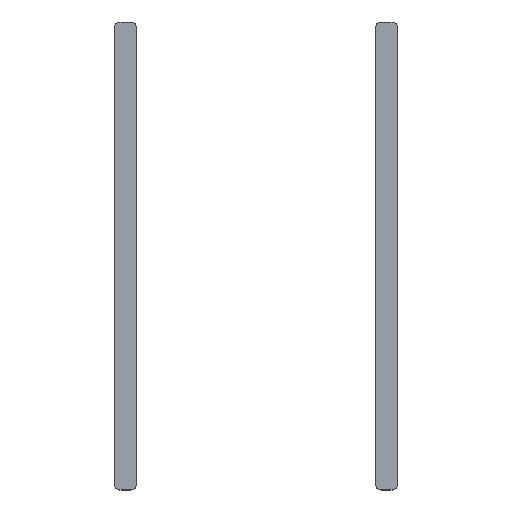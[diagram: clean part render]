
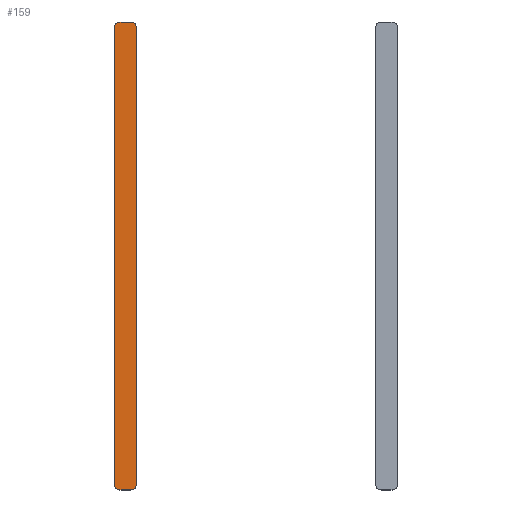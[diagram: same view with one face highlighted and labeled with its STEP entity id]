
A CAD part, top view. The second image highlights one B-rep face of the part: STEP entity #159.
In plain terms, the highlighted planar face has unit normal (0, 0, 1).
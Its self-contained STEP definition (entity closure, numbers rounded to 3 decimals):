
#43 = EDGE_CURVE('',#44,#46,#48,.T.);
#44 = VERTEX_POINT('',#45);
#45 = CARTESIAN_POINT('',(-26.,-42.,-11.85));
#46 = VERTEX_POINT('',#47);
#47 = CARTESIAN_POINT('',(-26.,42.,-11.85));
#48 = SURFACE_CURVE('',#49,(#53,#65),.PCURVE_S1.);
#49 = LINE('',#50,#51);
#50 = CARTESIAN_POINT('',(-26.,-43.,-11.85));
#51 = VECTOR('',#52,1.);
#52 = DIRECTION('',(0.,1.,0.));
#53 = PCURVE('',#54,#59);
#54 = PLANE('',#55);
#55 = AXIS2_PLACEMENT_3D('',#56,#57,#58);
#56 = CARTESIAN_POINT('',(-26.,-43.,-11.95));
#57 = DIRECTION('',(1.,0.,0.));
#58 = DIRECTION('',(0.,0.,1.));
#59 = DEFINITIONAL_REPRESENTATION('',(#60),#64);
#60 = LINE('',#61,#62);
#61 = CARTESIAN_POINT('',(0.1,0.));
#62 = VECTOR('',#63,1.);
#63 = DIRECTION('',(0.,-1.));
#64 = ( GEOMETRIC_REPRESENTATION_CONTEXT(2) 
PARAMETRIC_REPRESENTATION_CONTEXT() REPRESENTATION_CONTEXT('2D SPACE',''
  ) );
#65 = PCURVE('',#66,#71);
#66 = PLANE('',#67);
#67 = AXIS2_PLACEMENT_3D('',#68,#69,#70);
#68 = CARTESIAN_POINT('',(-26.,-43.,-11.85));
#69 = DIRECTION('',(0.,0.,1.));
#70 = DIRECTION('',(1.,0.,0.));
#71 = DEFINITIONAL_REPRESENTATION('',(#72),#76);
#72 = LINE('',#73,#74);
#73 = CARTESIAN_POINT('',(0.,0.));
#74 = VECTOR('',#75,1.);
#75 = DIRECTION('',(0.,1.));
#76 = ( GEOMETRIC_REPRESENTATION_CONTEXT(2) 
PARAMETRIC_REPRESENTATION_CONTEXT() REPRESENTATION_CONTEXT('2D SPACE',''
  ) );
#94 = CYLINDRICAL_SURFACE('',#95,1.);
#95 = AXIS2_PLACEMENT_3D('',#96,#97,#98);
#96 = CARTESIAN_POINT('',(-25.,-42.,-11.95));
#97 = DIRECTION('',(0.,0.,1.));
#98 = DIRECTION('',(-1.,-0.,0.));
#148 = CYLINDRICAL_SURFACE('',#149,1.);
#149 = AXIS2_PLACEMENT_3D('',#150,#151,#152);
#150 = CARTESIAN_POINT('',(-25.,42.,-11.95));
#151 = DIRECTION('',(0.,0.,1.));
#152 = DIRECTION('',(-1.,-0.,0.));
#159 = ADVANCED_FACE('',(#160),#66,.T.);
#160 = FACE_BOUND('',#161,.T.);
#161 = EDGE_LOOP('',(#162,#163,#187,#215,#248,#276,#305,#333));
#162 = ORIENTED_EDGE('',*,*,#43,.F.);
#163 = ORIENTED_EDGE('',*,*,#164,.T.);
#164 = EDGE_CURVE('',#44,#165,#167,.T.);
#165 = VERTEX_POINT('',#166);
#166 = CARTESIAN_POINT('',(-25.,-43.,-11.85));
#167 = SURFACE_CURVE('',#168,(#173,#180),.PCURVE_S1.);
#168 = CIRCLE('',#169,1.);
#169 = AXIS2_PLACEMENT_3D('',#170,#171,#172);
#170 = CARTESIAN_POINT('',(-25.,-42.,-11.85));
#171 = DIRECTION('',(0.,0.,1.));
#172 = DIRECTION('',(0.,-1.,0.));
#173 = PCURVE('',#66,#174);
#174 = DEFINITIONAL_REPRESENTATION('',(#175),#179);
#175 = CIRCLE('',#176,1.);
#176 = AXIS2_PLACEMENT_2D('',#177,#178);
#177 = CARTESIAN_POINT('',(1.,1.));
#178 = DIRECTION('',(0.,-1.));
#179 = ( GEOMETRIC_REPRESENTATION_CONTEXT(2) 
PARAMETRIC_REPRESENTATION_CONTEXT() REPRESENTATION_CONTEXT('2D SPACE',''
  ) );
#180 = PCURVE('',#94,#181);
#181 = DEFINITIONAL_REPRESENTATION('',(#182),#186);
#182 = LINE('',#183,#184);
#183 = CARTESIAN_POINT('',(-4.712,0.1));
#184 = VECTOR('',#185,1.);
#185 = DIRECTION('',(1.,0.));
#186 = ( GEOMETRIC_REPRESENTATION_CONTEXT(2) 
PARAMETRIC_REPRESENTATION_CONTEXT() REPRESENTATION_CONTEXT('2D SPACE',''
  ) );
#187 = ORIENTED_EDGE('',*,*,#188,.T.);
#188 = EDGE_CURVE('',#165,#189,#191,.T.);
#189 = VERTEX_POINT('',#190);
#190 = CARTESIAN_POINT('',(-23.,-43.,-11.85));
#191 = SURFACE_CURVE('',#192,(#196,#203),.PCURVE_S1.);
#192 = LINE('',#193,#194);
#193 = CARTESIAN_POINT('',(-26.,-43.,-11.85));
#194 = VECTOR('',#195,1.);
#195 = DIRECTION('',(1.,0.,0.));
#196 = PCURVE('',#66,#197);
#197 = DEFINITIONAL_REPRESENTATION('',(#198),#202);
#198 = LINE('',#199,#200);
#199 = CARTESIAN_POINT('',(0.,0.));
#200 = VECTOR('',#201,1.);
#201 = DIRECTION('',(1.,0.));
#202 = ( GEOMETRIC_REPRESENTATION_CONTEXT(2) 
PARAMETRIC_REPRESENTATION_CONTEXT() REPRESENTATION_CONTEXT('2D SPACE',''
  ) );
#203 = PCURVE('',#204,#209);
#204 = PLANE('',#205);
#205 = AXIS2_PLACEMENT_3D('',#206,#207,#208);
#206 = CARTESIAN_POINT('',(-26.,-43.,-11.95));
#207 = DIRECTION('',(0.,1.,0.));
#208 = DIRECTION('',(0.,0.,1.));
#209 = DEFINITIONAL_REPRESENTATION('',(#210),#214);
#210 = LINE('',#211,#212);
#211 = CARTESIAN_POINT('',(0.1,0.));
#212 = VECTOR('',#213,1.);
#213 = DIRECTION('',(0.,1.));
#214 = ( GEOMETRIC_REPRESENTATION_CONTEXT(2) 
PARAMETRIC_REPRESENTATION_CONTEXT() REPRESENTATION_CONTEXT('2D SPACE',''
  ) );
#215 = ORIENTED_EDGE('',*,*,#216,.F.);
#216 = EDGE_CURVE('',#217,#189,#219,.T.);
#217 = VERTEX_POINT('',#218);
#218 = CARTESIAN_POINT('',(-22.,-42.,-11.85));
#219 = SURFACE_CURVE('',#220,(#225,#236),.PCURVE_S1.);
#220 = CIRCLE('',#221,1.);
#221 = AXIS2_PLACEMENT_3D('',#222,#223,#224);
#222 = CARTESIAN_POINT('',(-23.,-42.,-11.85));
#223 = DIRECTION('',(-0.,-0.,-1.));
#224 = DIRECTION('',(0.,-1.,0.));
#225 = PCURVE('',#66,#226);
#226 = DEFINITIONAL_REPRESENTATION('',(#227),#235);
#227 = ( BOUNDED_CURVE() B_SPLINE_CURVE(2,(#228,#229,#230,#231,#232,#233
,#234),.UNSPECIFIED.,.T.,.F.) B_SPLINE_CURVE_WITH_KNOTS((1,2,2,2,2,1),(
    -2.094,0.,2.094,4.189,6.283,
8.378),.UNSPECIFIED.) CURVE() GEOMETRIC_REPRESENTATION_ITEM() 
RATIONAL_B_SPLINE_CURVE((1.,0.5,1.,0.5,1.,0.5,1.)) REPRESENTATION_ITEM(
  '') );
#228 = CARTESIAN_POINT('',(3.,0.));
#229 = CARTESIAN_POINT('',(1.268,0.));
#230 = CARTESIAN_POINT('',(2.134,1.5));
#231 = CARTESIAN_POINT('',(3.,3.));
#232 = CARTESIAN_POINT('',(3.866,1.5));
#233 = CARTESIAN_POINT('',(4.732,0.));
#234 = CARTESIAN_POINT('',(3.,0.));
#235 = ( GEOMETRIC_REPRESENTATION_CONTEXT(2) 
PARAMETRIC_REPRESENTATION_CONTEXT() REPRESENTATION_CONTEXT('2D SPACE',''
  ) );
#236 = PCURVE('',#237,#242);
#237 = CYLINDRICAL_SURFACE('',#238,1.);
#238 = AXIS2_PLACEMENT_3D('',#239,#240,#241);
#239 = CARTESIAN_POINT('',(-23.,-42.,-11.95));
#240 = DIRECTION('',(0.,0.,1.));
#241 = DIRECTION('',(1.,0.,-0.));
#242 = DEFINITIONAL_REPRESENTATION('',(#243),#247);
#243 = LINE('',#244,#245);
#244 = CARTESIAN_POINT('',(4.712,0.1));
#245 = VECTOR('',#246,1.);
#246 = DIRECTION('',(-1.,0.));
#247 = ( GEOMETRIC_REPRESENTATION_CONTEXT(2) 
PARAMETRIC_REPRESENTATION_CONTEXT() REPRESENTATION_CONTEXT('2D SPACE',''
  ) );
#248 = ORIENTED_EDGE('',*,*,#249,.T.);
#249 = EDGE_CURVE('',#217,#250,#252,.T.);
#250 = VERTEX_POINT('',#251);
#251 = CARTESIAN_POINT('',(-22.,42.,-11.85));
#252 = SURFACE_CURVE('',#253,(#257,#264),.PCURVE_S1.);
#253 = LINE('',#254,#255);
#254 = CARTESIAN_POINT('',(-22.,-43.,-11.85));
#255 = VECTOR('',#256,1.);
#256 = DIRECTION('',(0.,1.,0.));
#257 = PCURVE('',#66,#258);
#258 = DEFINITIONAL_REPRESENTATION('',(#259),#263);
#259 = LINE('',#260,#261);
#260 = CARTESIAN_POINT('',(4.,0.));
#261 = VECTOR('',#262,1.);
#262 = DIRECTION('',(0.,1.));
#263 = ( GEOMETRIC_REPRESENTATION_CONTEXT(2) 
PARAMETRIC_REPRESENTATION_CONTEXT() REPRESENTATION_CONTEXT('2D SPACE',''
  ) );
#264 = PCURVE('',#265,#270);
#265 = PLANE('',#266);
#266 = AXIS2_PLACEMENT_3D('',#267,#268,#269);
#267 = CARTESIAN_POINT('',(-22.,-43.,-11.95));
#268 = DIRECTION('',(1.,0.,0.));
#269 = DIRECTION('',(0.,0.,1.));
#270 = DEFINITIONAL_REPRESENTATION('',(#271),#275);
#271 = LINE('',#272,#273);
#272 = CARTESIAN_POINT('',(0.1,0.));
#273 = VECTOR('',#274,1.);
#274 = DIRECTION('',(0.,-1.));
#275 = ( GEOMETRIC_REPRESENTATION_CONTEXT(2) 
PARAMETRIC_REPRESENTATION_CONTEXT() REPRESENTATION_CONTEXT('2D SPACE',''
  ) );
#276 = ORIENTED_EDGE('',*,*,#277,.T.);
#277 = EDGE_CURVE('',#250,#278,#280,.T.);
#278 = VERTEX_POINT('',#279);
#279 = CARTESIAN_POINT('',(-23.,43.,-11.85));
#280 = SURFACE_CURVE('',#281,(#286,#293),.PCURVE_S1.);
#281 = CIRCLE('',#282,1.);
#282 = AXIS2_PLACEMENT_3D('',#283,#284,#285);
#283 = CARTESIAN_POINT('',(-23.,42.,-11.85));
#284 = DIRECTION('',(0.,0.,1.));
#285 = DIRECTION('',(0.,-1.,0.));
#286 = PCURVE('',#66,#287);
#287 = DEFINITIONAL_REPRESENTATION('',(#288),#292);
#288 = CIRCLE('',#289,1.);
#289 = AXIS2_PLACEMENT_2D('',#290,#291);
#290 = CARTESIAN_POINT('',(3.,85.));
#291 = DIRECTION('',(0.,-1.));
#292 = ( GEOMETRIC_REPRESENTATION_CONTEXT(2) 
PARAMETRIC_REPRESENTATION_CONTEXT() REPRESENTATION_CONTEXT('2D SPACE',''
  ) );
#293 = PCURVE('',#294,#299);
#294 = CYLINDRICAL_SURFACE('',#295,1.);
#295 = AXIS2_PLACEMENT_3D('',#296,#297,#298);
#296 = CARTESIAN_POINT('',(-23.,42.,-11.95));
#297 = DIRECTION('',(0.,0.,1.));
#298 = DIRECTION('',(1.,0.,-0.));
#299 = DEFINITIONAL_REPRESENTATION('',(#300),#304);
#300 = LINE('',#301,#302);
#301 = CARTESIAN_POINT('',(-1.571,0.1));
#302 = VECTOR('',#303,1.);
#303 = DIRECTION('',(1.,0.));
#304 = ( GEOMETRIC_REPRESENTATION_CONTEXT(2) 
PARAMETRIC_REPRESENTATION_CONTEXT() REPRESENTATION_CONTEXT('2D SPACE',''
  ) );
#305 = ORIENTED_EDGE('',*,*,#306,.F.);
#306 = EDGE_CURVE('',#307,#278,#309,.T.);
#307 = VERTEX_POINT('',#308);
#308 = CARTESIAN_POINT('',(-25.,43.,-11.85));
#309 = SURFACE_CURVE('',#310,(#314,#321),.PCURVE_S1.);
#310 = LINE('',#311,#312);
#311 = CARTESIAN_POINT('',(-26.,43.,-11.85));
#312 = VECTOR('',#313,1.);
#313 = DIRECTION('',(1.,0.,0.));
#314 = PCURVE('',#66,#315);
#315 = DEFINITIONAL_REPRESENTATION('',(#316),#320);
#316 = LINE('',#317,#318);
#317 = CARTESIAN_POINT('',(0.,86.));
#318 = VECTOR('',#319,1.);
#319 = DIRECTION('',(1.,0.));
#320 = ( GEOMETRIC_REPRESENTATION_CONTEXT(2) 
PARAMETRIC_REPRESENTATION_CONTEXT() REPRESENTATION_CONTEXT('2D SPACE',''
  ) );
#321 = PCURVE('',#322,#327);
#322 = PLANE('',#323);
#323 = AXIS2_PLACEMENT_3D('',#324,#325,#326);
#324 = CARTESIAN_POINT('',(-26.,43.,-11.95));
#325 = DIRECTION('',(0.,1.,0.));
#326 = DIRECTION('',(0.,0.,1.));
#327 = DEFINITIONAL_REPRESENTATION('',(#328),#332);
#328 = LINE('',#329,#330);
#329 = CARTESIAN_POINT('',(0.1,0.));
#330 = VECTOR('',#331,1.);
#331 = DIRECTION('',(0.,1.));
#332 = ( GEOMETRIC_REPRESENTATION_CONTEXT(2) 
PARAMETRIC_REPRESENTATION_CONTEXT() REPRESENTATION_CONTEXT('2D SPACE',''
  ) );
#333 = ORIENTED_EDGE('',*,*,#334,.F.);
#334 = EDGE_CURVE('',#46,#307,#335,.T.);
#335 = SURFACE_CURVE('',#336,(#341,#352),.PCURVE_S1.);
#336 = CIRCLE('',#337,1.);
#337 = AXIS2_PLACEMENT_3D('',#338,#339,#340);
#338 = CARTESIAN_POINT('',(-25.,42.,-11.85));
#339 = DIRECTION('',(-0.,-0.,-1.));
#340 = DIRECTION('',(0.,-1.,0.));
#341 = PCURVE('',#66,#342);
#342 = DEFINITIONAL_REPRESENTATION('',(#343),#351);
#343 = ( BOUNDED_CURVE() B_SPLINE_CURVE(2,(#344,#345,#346,#347,#348,#349
,#350),.UNSPECIFIED.,.T.,.F.) B_SPLINE_CURVE_WITH_KNOTS((1,2,2,2,2,1),(
    -2.094,0.,2.094,4.189,6.283,
8.378),.UNSPECIFIED.) CURVE() GEOMETRIC_REPRESENTATION_ITEM() 
RATIONAL_B_SPLINE_CURVE((1.,0.5,1.,0.5,1.,0.5,1.)) REPRESENTATION_ITEM(
  '') );
#344 = CARTESIAN_POINT('',(1.,84.));
#345 = CARTESIAN_POINT('',(-0.732,84.));
#346 = CARTESIAN_POINT('',(0.134,85.5));
#347 = CARTESIAN_POINT('',(1.,87.));
#348 = CARTESIAN_POINT('',(1.866,85.5));
#349 = CARTESIAN_POINT('',(2.732,84.));
#350 = CARTESIAN_POINT('',(1.,84.));
#351 = ( GEOMETRIC_REPRESENTATION_CONTEXT(2) 
PARAMETRIC_REPRESENTATION_CONTEXT() REPRESENTATION_CONTEXT('2D SPACE',''
  ) );
#352 = PCURVE('',#148,#353);
#353 = DEFINITIONAL_REPRESENTATION('',(#354),#358);
#354 = LINE('',#355,#356);
#355 = CARTESIAN_POINT('',(1.571,0.1));
#356 = VECTOR('',#357,1.);
#357 = DIRECTION('',(-1.,0.));
#358 = ( GEOMETRIC_REPRESENTATION_CONTEXT(2) 
PARAMETRIC_REPRESENTATION_CONTEXT() REPRESENTATION_CONTEXT('2D SPACE',''
  ) );
